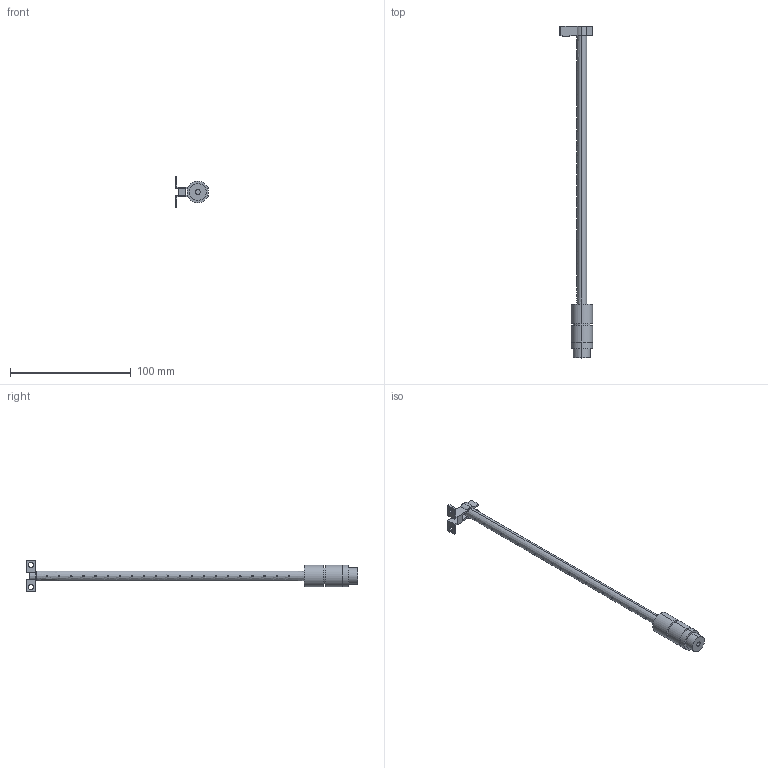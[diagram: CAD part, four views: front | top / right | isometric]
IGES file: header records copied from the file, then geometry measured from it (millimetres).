
Start section: SolidWorks IGES FILE using analytic representation for surfaces
Global section: file name: \\intra-srv04\開発データ\CAD_Data\CAD委員会\3D電子ｶﾀﾛｸﾞ\製品カタログ（新）\0_IGES\ER-VAB020.IGS,41HSolidWorks 2004; native system: by SolidWorks Corporation; preprocessor: Version 5.3; author: mf1158; date: 050906.113745; units: millimetre
Bounding box: 28 x 275 x 26 mm (x, y, z)
Volume: 19251.9 mm3; surface area: 13912 mm2
Topology: 2 solids, 2 shells, 103 faces, 272 edges, 180 vertices
Faces by surface type: revolution 68, plane 35
